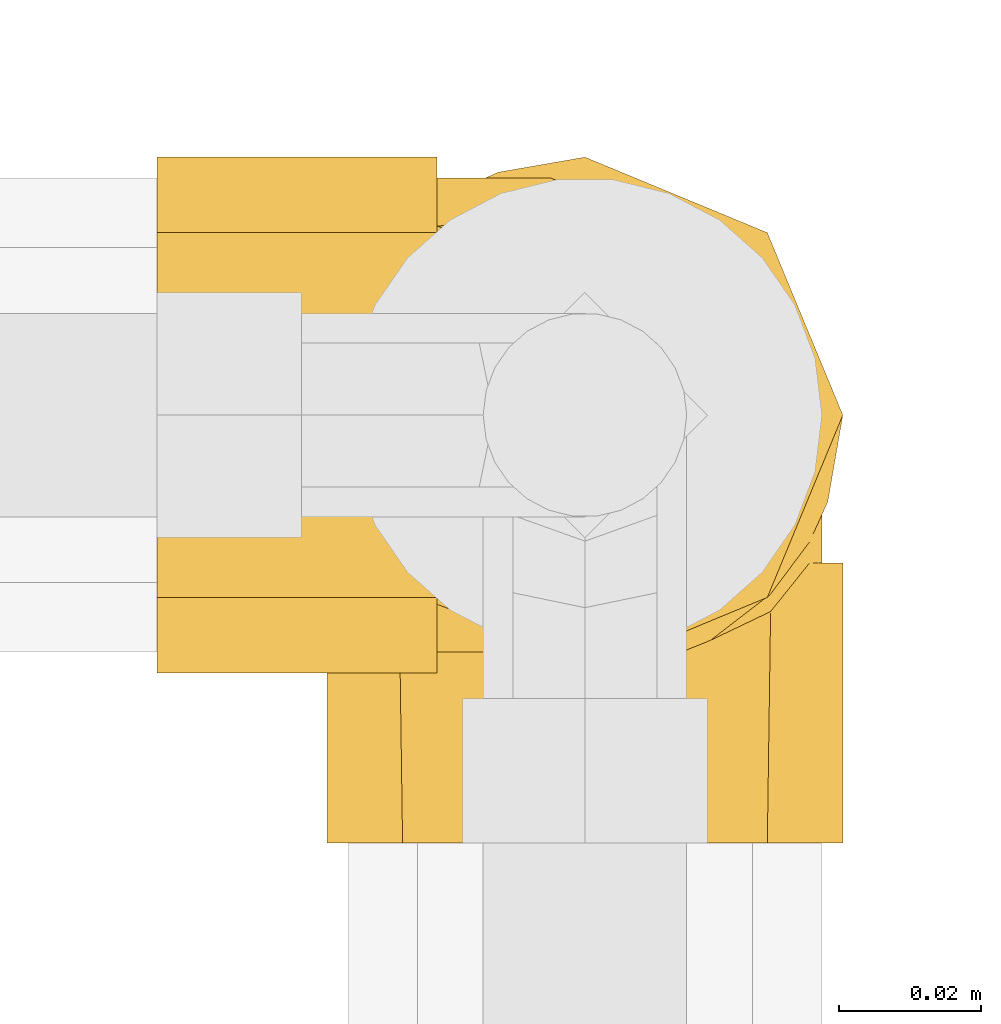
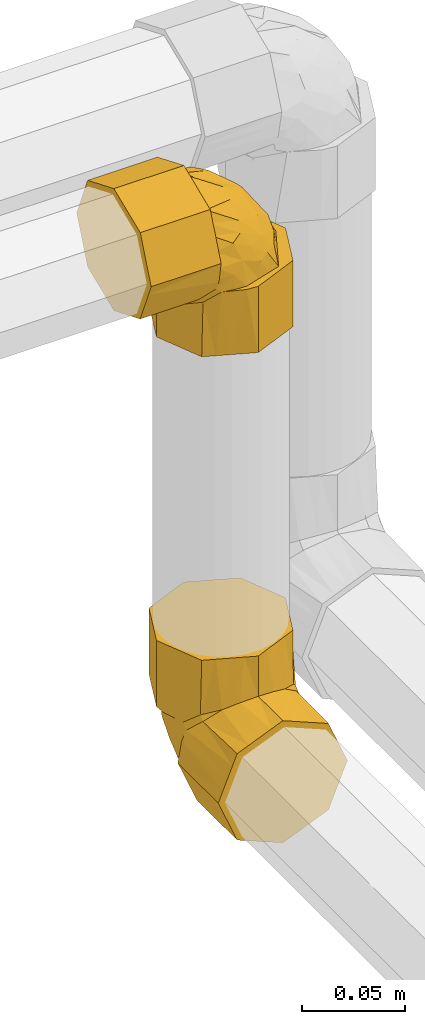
# One storey, part 267 of 652: 2 coverings.
"""IFC2X3 building model written with IfcOpenShell, lengths in millimetres."""

from ifc_helpers import new_model, entity, si_unit, converted_unit, direction, frame, origin, place, context, subcontext, project, spatial, faceted_brep, material, type_object, element, save


model = new_model("IFC2X3")

# Units and contexts
model_context = context("Model", 3, precision=0.01, world=frame((0.0, 0.0, 308426.39999999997)), true_north=direction((6.123233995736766e-17, 1.0)))
plan_context = context("Plan", 3, precision=0.01, world=frame((0.0, 0.0, 308426.39999999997)), true_north=direction((6.123233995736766e-17, 1.0)))
body_context = subcontext(model_context, "Body", "Model", "MODEL_VIEW")
ifc_project = project(units=[si_unit("LENGTHUNIT", "METRE", prefix="MILLI"), si_unit("AREAUNIT", "SQUARE_METRE"), si_unit("VOLUMEUNIT", "CUBIC_METRE"), converted_unit("PLANEANGLEUNIT", "DEGREE", entity("IfcPlaneAngleMeasure", 0.017453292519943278), si_unit("PLANEANGLEUNIT", "RADIAN"), dimensions=[0, 0, 0, 0, 0, 0, 0])], contexts=[model_context, plan_context])

# Site, building, storey
site_placement = place(None, origin())
site = spatial("IfcSite", under=ifc_project, at=site_placement, Name="Default", CompositionType="ELEMENT")
building_placement = place(site_placement, origin())
building = spatial("IfcBuilding", under=site, at=building_placement, CompositionType="ELEMENT")
storey_placement = place(building_placement, frame((0.0, 0.0, 1730.6999999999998)))
storey = spatial("IfcBuildingStorey", under=building, at=storey_placement, Name="EG_Produktion_FFB", CompositionType="ELEMENT", Elevation=1730.6999999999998)

# Coverings
ifc_material = material(Name="Dämmung - Armaflex-Schlauch")
covering_type = type_object("IfcCoveringType", Name="Rohrdämmung außen:Armaflex-Schlauch", PredefinedType="INSULATION")
covering_1_placement = place(storey_placement, frame((77719.9492499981, 69777.20272776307, 3937.7972722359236)))
element("IfcCovering", 1, at=covering_1_placement, inside=storey, type_object=covering_type, material=ifc_material, Name="Rohrdämmung außen:Armaflex-Schlauch", ObjectType="Rohrdämmung außen:Armaflex-Schlauch", PredefinedType="INSULATION", context=body_context, shape_type="Brep", body=[
    faceted_brep([(39.259249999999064, 3.7153254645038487, -50.004061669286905), (39.259249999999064, 6.296879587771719, -55.63851846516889), (39.259249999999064, 4.988212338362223, -49.19061548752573), (39.259249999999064, 4.509772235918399, -42.62645720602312), (39.259249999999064, 7.880085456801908, -34.86648289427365), (39.259249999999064, 11.250398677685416, -27.106508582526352), (39.259249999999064, 13.86935213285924, -21.076501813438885), (39.259249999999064, 16.488305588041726, -15.046495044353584), (39.259249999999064, 27.142788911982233, -11.034704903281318), (39.259249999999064, 37.79727223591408, -7.022914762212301), (39.259249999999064, 44.42687530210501, -10.459541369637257), (39.259249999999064, 51.05647836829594, -13.896167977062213), (39.259249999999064, 57.686081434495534, -17.33279458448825), (39.259249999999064, 64.31568450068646, -20.76942119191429), (39.259249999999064, 66.427635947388, -27.588803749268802), (39.259249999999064, 68.53958739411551, -34.408186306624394), (39.259249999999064, 71.08477223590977, -42.62645720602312), (39.259249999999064, 70.60633213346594, -49.19061548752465), (39.259249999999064, 69.29766488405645, -55.63851846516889), (39.259249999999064, 73.46335606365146, -44.00333929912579), (39.259249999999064, 73.99927223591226, -37.797272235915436), (39.259249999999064, 70.84694562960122, -30.186882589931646), (39.259249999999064, 68.69761208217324, -24.99793238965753), (39.259249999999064, 66.04678200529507, -18.59826246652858), (39.259249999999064, 63.39595192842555, -12.19859254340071), (39.259249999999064, 56.996282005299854, -9.547762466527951), (39.259249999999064, 50.596612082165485, -6.8969323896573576), (39.259249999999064, 44.196942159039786, -4.246102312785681), (39.259249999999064, 37.79727223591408, -1.5952722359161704), (39.259249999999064, 30.186882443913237, -4.747598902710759), (39.259249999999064, 24.997932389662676, -6.896932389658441), (39.259249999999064, 18.598262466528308, -9.547762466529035), (39.259249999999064, 12.198592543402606, -12.19859254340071), (39.259249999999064, 9.547762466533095, -18.59826246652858), (39.259249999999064, 6.896932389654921, -24.99793238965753), (39.259249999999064, 4.2461023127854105, -31.397602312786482), (39.259249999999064, 1.5952722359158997, -37.797272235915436), (0.0, 71.34844215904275, -44.19694215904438), (0.0, 68.69761208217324, -50.59661208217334), (0.0, 66.04678200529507, -56.99628200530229), (0.0, 63.39595192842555, -63.39595192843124), (0.0, 56.996282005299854, -66.04678200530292), (0.0, 50.596612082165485, -68.6976120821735), (0.0, 44.196942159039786, -71.3484421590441), (0.0, 37.79727223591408, -73.99927223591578), (0.0, 31.39760231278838, -71.3484421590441), (0.0, 24.997932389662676, -68.69761208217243), (0.0, 18.598262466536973, -66.04678200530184), (0.0, 12.198592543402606, -63.39595192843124), (0.0, 9.547762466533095, -56.996282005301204), (0.0, 6.896932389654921, -50.59661208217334), (0.0, 4.2461023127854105, -44.19694215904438), (0.0, 1.5952722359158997, -37.797272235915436), (0.0, 4.2461023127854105, -31.397602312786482), (0.0, 6.896932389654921, -24.99793238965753), (0.0, 9.547762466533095, -18.59826246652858), (0.0, 12.198592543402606, -12.19859254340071), (0.0, 22.576491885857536, -7.899925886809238), (0.0, 30.186882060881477, -4.747599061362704), (0.0, 37.79727223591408, -1.5952722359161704), (0.0, 44.196942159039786, -4.246102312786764), (0.0, 50.596612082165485, -6.896932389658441), (0.0, 56.996282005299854, -9.547762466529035), (0.0, 63.39595192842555, -12.19859254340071), (0.0, 67.69461861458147, -22.576491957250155), (0.0, 70.84694542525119, -30.186882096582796), (0.0, 73.99927223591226, -37.797272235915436), (32.46668914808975, 63.85372723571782, -62.92983988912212), (25.075941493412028, 47.14326463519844, -72.77208074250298), (28.426678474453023, 55.41836482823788, -69.42134376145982), (23.848750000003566, 37.79727223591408, -73.99927223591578), (32.46668914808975, 11.740817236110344, -62.92983988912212), (25.075941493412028, 28.451279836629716, -72.77208074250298), (28.426678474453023, 20.176179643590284, -69.42134376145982), (60.05075000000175, 1.5952722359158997, -58.588772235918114), (67.66113984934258, 4.7475989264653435, -58.588772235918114), (72.85008984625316, 6.896932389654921, -58.588772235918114), (79.24975976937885, 9.547762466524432, -58.588772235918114), (85.64942969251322, 12.198592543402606, -58.588772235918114), (88.30025976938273, 18.598262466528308, -58.588772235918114), (90.9510898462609, 24.997932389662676, -58.588772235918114), (93.60191992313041, 31.39760231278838, -58.588772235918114), (96.25274999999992, 37.79727223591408, -58.588772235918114), (93.10042349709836, 45.40766163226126, -58.588772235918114), (90.9510898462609, 50.596612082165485, -58.588772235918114), (88.30025976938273, 56.996282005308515, -58.588772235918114), (85.64942969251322, 63.39595192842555, -58.588772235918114), (79.24975976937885, 66.04678200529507, -58.588772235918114), (72.85008984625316, 68.69761208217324, -58.588772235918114), (66.45041992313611, 71.34844215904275, -58.588772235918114), (60.05075000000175, 73.99927223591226, -58.588772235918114), (47.8439605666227, 71.87921900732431, -58.588772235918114), (42.20950377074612, 69.29766488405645, -58.588772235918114), (48.65740674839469, 70.60633213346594, -58.588772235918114), (55.22156502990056, 71.08477223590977, -58.588772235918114), (62.98153911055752, 67.71445911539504, -58.588772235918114), (70.74151319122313, 64.34414599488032, -58.588772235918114), (76.77152019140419, 61.72519243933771, -58.588772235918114), (82.80152719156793, 59.10623888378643, -58.588772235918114), (86.8133173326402, 48.45175555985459, -58.588772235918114), (90.82510747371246, 37.79727223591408, -58.588772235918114), (87.38848086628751, 31.16766916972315, -58.588772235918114), (83.95185425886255, 24.53806610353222, -58.588772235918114), (80.51522765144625, 17.908463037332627, -58.588772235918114), (77.07860104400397, 11.278859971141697, -58.588772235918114), (70.25921835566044, 9.166908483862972, -58.588772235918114), (63.439835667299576, 7.054956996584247, -58.588772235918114), (55.22156502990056, 4.509772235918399, -58.588772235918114), (48.65740674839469, 4.988212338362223, -58.588772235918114), (42.20950377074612, 6.296879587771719, -58.588772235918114), (53.84468293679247, 2.131188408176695, -58.588772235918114), (85.64942969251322, 63.39595192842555, -97.84802223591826), (89.94809658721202, 53.01805201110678, -97.84802223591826), (93.10042329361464, 45.40766212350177, -97.84802223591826), (96.25274999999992, 37.79727223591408, -97.84802223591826), (93.60191992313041, 31.397602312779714, -97.84802223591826), (90.9510898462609, 24.997932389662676, -97.84802223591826), (88.30025976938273, 18.598262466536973, -97.84802223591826), (85.64942969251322, 12.198592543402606, -97.84802223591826), (75.2715303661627, 7.89992589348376, -97.84802223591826), (67.66114018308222, 4.747599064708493, -97.84802223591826), (60.05075000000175, 1.5952722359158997, -97.84802223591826), (53.65108007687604, 4.2461023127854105, -97.84802223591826), (47.25141015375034, 6.896932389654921, -97.84802223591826), (40.851740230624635, 9.547762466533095, -97.84802223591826), (34.45207030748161, 12.198592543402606, -97.84802223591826), (31.801240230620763, 18.598262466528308, -97.84802223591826), (29.150410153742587, 24.997932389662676, -97.84802223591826), (26.499580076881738, 31.39760231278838, -97.84802223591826), (23.848750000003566, 37.79727223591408, -97.84802223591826), (26.499580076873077, 44.196942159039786, -97.84802223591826), (29.150410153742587, 50.596612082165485, -97.84802223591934), (31.801240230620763, 56.996282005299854, -97.84802223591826), (34.45207030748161, 63.39595192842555, -97.84802223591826), (40.851740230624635, 66.04678200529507, -97.84802223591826), (47.25141015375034, 68.69761208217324, -97.84802223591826), (53.65108007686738, 71.34844215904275, -97.84802223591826), (60.05075000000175, 73.99927223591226, -97.84802223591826), (66.45041992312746, 71.34844215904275, -97.84802223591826), (72.85008984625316, 68.69761208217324, -97.84802223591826), (79.24975976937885, 66.04678200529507, -97.84802223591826), (34.92195481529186, 63.85736541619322, -65.37871062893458), (34.92195481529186, 11.737179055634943, -65.37871062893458), (49.210183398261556, 68.41675007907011, -33.374653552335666), (54.63531521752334, 70.09494488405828, -44.305421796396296), (48.39608948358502, 71.08477223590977, -49.45193275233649), (43.978455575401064, 71.08477223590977, -46.15183622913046), (51.69618583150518, 71.08477223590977, -53.869566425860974), (65.06955237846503, 68.18497914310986, -48.58098457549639), (66.14940844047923, 54.93584498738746, -26.964693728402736), (58.59034686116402, 47.55789547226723, -17.094525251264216), (73.81910229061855, 46.96971299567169, -29.785099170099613), (49.86476535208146, 61.16915130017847, -21.419266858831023), (59.52853294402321, 62.09740281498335, -28.912706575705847), (50.389767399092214, 65.36649404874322, -27.50780353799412), (79.53115199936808, 53.32066831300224, -41.80178984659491), (72.05314656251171, 61.51946830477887, -41.47102568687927), (67.4364402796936, 65.29725071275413, -42.91617535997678), (53.71476365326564, 54.89550280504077, -17.983915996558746), (83.05038596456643, 45.8214932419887, -42.158493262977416), (71.9339064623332, 37.79727223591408, -25.914115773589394), (53.504828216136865, 37.79727223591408, -15.2591476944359), (82.58887389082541, 37.79727223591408, -44.34319289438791), (59.256858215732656, 67.18830204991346, -38.21270924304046), (48.39608948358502, 4.509772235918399, -49.45193275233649), (43.978455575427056, 4.509772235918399, -46.151836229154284), (51.69618583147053, 4.509772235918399, -53.86956642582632), (53.54260071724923, 5.499599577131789, -43.212707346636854), (68.93531358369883, 13.497141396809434, -38.31948716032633), (56.37699426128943, 14.075076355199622, -25.7948738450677), (54.93184531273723, 10.29729383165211, -30.411580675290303), (70.88332482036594, 20.658699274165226, -31.69860991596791), (56.04622779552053, 22.273876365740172, -18.316867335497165), (68.06291889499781, 28.624831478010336, -24.02891622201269), (55.689524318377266, 29.77305016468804, -14.797633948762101), (49.26703672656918, 7.40956538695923, -32.7784690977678), (80.75349406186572, 28.036649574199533, -39.25767043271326), (76.42875424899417, 14.425393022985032, -47.98325505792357), (70.34021782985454, 10.22805028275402, -47.45825379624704), (79.86410395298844, 20.699041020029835, -44.133255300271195), (64.47336832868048, 7.1777944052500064, -48.63783824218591), (59.63531173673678, 8.406242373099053, -38.59116288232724)], [[[0, 1, 2, 3, 4, 5, 6, 7, 8, 9, 10, 11, 12, 13, 14, 15, 16, 17, 18, 19, 20, 21, 22, 23, 24, 25, 26, 27, 28, 29, 30, 31, 32, 33, 34, 35, 36]], [[37, 38, 39, 40, 41, 42, 43, 44, 45, 46, 47, 48, 49, 50, 51, 52, 53, 54, 55, 56, 57, 58, 59, 60, 61, 62, 63, 64, 65, 66]], [[41, 40, 67]], [[39, 67, 40]], [[67, 39, 18]], [[68, 42, 69]], [[69, 42, 41]], [[69, 41, 67]], [[38, 19, 18]], [[20, 19, 66]], [[43, 70, 44]], [[19, 38, 37, 66]], [[43, 42, 68]], [[70, 43, 68]], [[39, 38, 18]], [[66, 65, 64, 63, 24, 23, 22, 21, 20]], [[24, 63, 62, 61, 60, 59, 28, 27, 26, 25]], [[29, 28, 59, 58, 57, 56, 32, 31, 30]], [[32, 56, 55, 54, 53, 52, 36, 35, 34, 33]], [[71, 1, 49]], [[0, 50, 1]], [[1, 50, 49]], [[72, 46, 45]], [[71, 49, 48]], [[47, 71, 48]], [[36, 51, 0]], [[70, 45, 44]], [[51, 50, 0]], [[73, 46, 72]], [[71, 47, 73]], [[45, 70, 72]], [[51, 36, 52]], [[47, 46, 73]], [[74, 75, 76, 77, 78, 79, 80, 81, 82, 83, 84, 85, 86, 87, 88, 89, 90, 91, 92, 93, 94, 95, 96, 97, 98, 99, 100, 101, 102, 103, 104, 105, 106, 107, 108, 109, 110]], [[111, 112, 113, 114, 115, 116, 117, 118, 119, 120, 121, 122, 123, 124, 125, 126, 127, 128, 129, 130, 131, 132, 133, 134, 135, 136, 137, 138, 139, 140]], [[114, 113, 112, 111, 86, 85, 84, 83, 82]], [[86, 111, 140, 139, 138, 137, 90, 89, 88, 87]], [[141, 92, 134]], [[91, 135, 92]], [[68, 131, 130]], [[134, 133, 141]], [[132, 141, 133]], [[136, 135, 91]], [[90, 136, 91]], [[70, 130, 129]], [[136, 90, 137]], [[69, 131, 68]], [[141, 132, 69]], [[130, 70, 68]], [[92, 135, 134]], [[132, 131, 69]], [[126, 125, 142]], [[124, 142, 125]], [[142, 124, 109]], [[72, 127, 73]], [[73, 127, 126]], [[73, 126, 142]], [[123, 110, 109]], [[74, 110, 121]], [[128, 70, 129]], [[110, 123, 122, 121]], [[128, 127, 72]], [[70, 128, 72]], [[124, 123, 109]], [[75, 74, 121, 120, 119, 118, 78, 77, 76]], [[78, 118, 117, 116, 115, 114, 82, 81, 80, 79]], [[15, 143, 144]], [[144, 145, 146, 16]], [[144, 94, 147, 145]], [[96, 95, 148]], [[149, 150, 151]], [[152, 153, 154]], [[149, 155, 156]], [[153, 156, 157]], [[152, 158, 153]], [[16, 15, 144]], [[151, 159, 155]], [[96, 148, 157]], [[151, 155, 149]], [[153, 149, 156]], [[156, 97, 157]], [[160, 159, 151]], [[98, 156, 155]], [[99, 98, 155]], [[160, 150, 161]], [[99, 159, 100]], [[159, 160, 162, 100]], [[160, 151, 150]], [[150, 11, 10]], [[150, 149, 158]], [[10, 161, 150]], [[9, 161, 10]], [[99, 155, 159]], [[143, 15, 14]], [[152, 13, 12]], [[158, 12, 11]], [[150, 158, 11]], [[153, 158, 149]], [[158, 152, 12]], [[154, 163, 143]], [[154, 143, 14]], [[154, 13, 152]], [[143, 163, 144]], [[148, 144, 163]], [[94, 144, 95]], [[154, 14, 13]], [[163, 154, 153]], [[144, 148, 95]], [[157, 148, 163]], [[153, 157, 163]], [[156, 98, 97]], [[96, 157, 97]], [[18, 17, 145]], [[67, 141, 69]], [[141, 67, 18]], [[17, 16, 146, 145]], [[147, 94, 93, 145]], [[141, 18, 92]], [[93, 92, 145]], [[92, 18, 145]], [[164, 1, 109]], [[2, 164, 165, 3]], [[164, 2, 1]], [[1, 71, 142]], [[142, 109, 1]], [[108, 107, 166, 164]], [[108, 164, 109]], [[142, 71, 73]], [[107, 106, 167]], [[168, 169, 170]], [[171, 172, 169]], [[173, 172, 171]], [[167, 164, 166, 107]], [[173, 174, 172]], [[175, 170, 5]], [[168, 171, 169]], [[167, 3, 165, 164]], [[176, 173, 171]], [[177, 168, 178]], [[5, 4, 175]], [[177, 179, 168]], [[106, 180, 167]], [[169, 6, 170]], [[160, 174, 173]], [[7, 169, 172]], [[8, 7, 172]], [[160, 176, 162]], [[8, 174, 9]], [[174, 160, 161, 9]], [[160, 173, 176]], [[176, 102, 101]], [[176, 171, 179]], [[101, 162, 176]], [[100, 162, 101]], [[8, 172, 174]], [[180, 106, 105]], [[177, 104, 103]], [[179, 103, 102]], [[176, 179, 102]], [[168, 179, 171]], [[179, 177, 103]], [[178, 181, 180]], [[178, 180, 105]], [[178, 104, 177]], [[180, 181, 167]], [[175, 167, 181]], [[3, 167, 4]], [[178, 105, 104]], [[181, 178, 168]], [[167, 175, 4]], [[170, 175, 181]], [[168, 170, 181]], [[169, 7, 6]], [[5, 170, 6]]]),
])
covering_2_placement = place(storey_placement, frame((77742.20272776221, 69754.94924999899, 3562.2027277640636)))
element("IfcCovering", 2, at=covering_2_placement, inside=storey, type_object=covering_type, material=ifc_material, Name="Rohrdämmung außen:Armaflex-Schlauch", ObjectType="Rohrdämmung außen:Armaflex-Schlauch", PredefinedType="INSULATION", context=body_context, shape_type="Brep", body=[
    faceted_brep([(71.87876124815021, 47.84268255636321, 58.588772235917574), (69.29766488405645, 42.20950377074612, 58.588772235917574), (70.60633213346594, 48.65740674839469, 58.588772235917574), (71.08477223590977, 55.22156502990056, 58.588772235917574), (67.71555609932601, 62.98224402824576, 58.58877223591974), (64.34633996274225, 70.7429230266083, 58.588772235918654), (61.73029913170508, 76.76873209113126, 58.588772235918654), (59.11425830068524, 82.79454115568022, 58.588772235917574), (48.455765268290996, 86.809824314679, 58.588772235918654), (37.79727223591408, 90.82510747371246, 58.588772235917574), (31.165885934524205, 87.38600173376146, 58.588772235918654), (24.534499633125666, 83.94689599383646, 58.588772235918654), (17.903113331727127, 80.5077902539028, 58.588772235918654), (11.271727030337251, 77.0686845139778, 58.588772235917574), (9.16267637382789, 70.25457778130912, 58.588772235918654), (7.0536257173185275, 63.44047104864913, 58.588772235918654), (4.509772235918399, 55.22156502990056, 58.588772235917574), (4.988212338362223, 48.65740674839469, 58.588772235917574), (6.296879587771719, 42.20950377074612, 58.588772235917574), (2.1312790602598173, 53.8441619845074, 58.588772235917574), (1.5952722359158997, 60.05075000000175, 58.588772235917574), (4.747598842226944, 67.66113964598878, 58.588772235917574), (6.896932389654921, 72.85008984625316, 58.588772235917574), (9.547762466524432, 79.24975976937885, 58.58877223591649), (12.198592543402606, 85.64942969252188, 58.588772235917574), (18.598262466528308, 88.30025976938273, 58.588772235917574), (24.997932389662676, 90.9510898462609, 58.588772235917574), (31.39760231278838, 93.60191992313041, 58.588772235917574), (37.79727223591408, 96.25274999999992, 58.588772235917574), (45.407662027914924, 93.10042333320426, 58.588772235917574), (50.596612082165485, 90.9510898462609, 58.58877223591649), (56.996282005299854, 88.30025976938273, 58.588772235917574), (63.39595192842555, 85.64942969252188, 58.588772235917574), (66.04678200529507, 79.24975976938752, 58.588772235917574), (68.69761208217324, 72.85008984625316, 58.588772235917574), (71.34844215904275, 66.45041992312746, 58.588772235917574), (73.99927223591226, 60.05075000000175, 58.588772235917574), (12.198592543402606, 34.452070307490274, 97.84802223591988), (18.598262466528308, 31.801240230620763, 97.84802223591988), (24.997932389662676, 29.150410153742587, 97.84802223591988), (31.39760231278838, 26.499580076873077, 97.84802223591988), (37.79727223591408, 23.848750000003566, 97.84802223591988), (44.196942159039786, 26.499580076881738, 97.84802223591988), (50.596612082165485, 29.150410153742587, 97.84802223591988), (56.996282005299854, 31.801240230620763, 97.84802223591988), (63.39595192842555, 34.452070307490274, 97.84802223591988), (66.04678200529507, 40.851740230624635, 97.84802223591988), (68.69761208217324, 47.25141015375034, 97.84802223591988), (71.3484421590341, 53.65108007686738, 97.84802223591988), (73.99927223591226, 60.05075000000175, 97.84802223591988), (71.3484421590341, 66.45041992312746, 97.84802223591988), (68.69761208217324, 72.85008984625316, 97.84802223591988), (66.04678200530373, 79.24975976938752, 97.84802223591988), (63.39595192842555, 85.64942969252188, 97.84802223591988), (53.01805258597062, 89.94809634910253, 97.84802223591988), (45.40766241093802, 93.10042317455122, 97.84802223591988), (37.79727223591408, 96.25274999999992, 97.84802223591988), (31.39760231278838, 93.60191992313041, 97.84802223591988), (24.99793238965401, 90.9510898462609, 97.84802223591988), (18.598262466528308, 88.30025976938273, 97.84802223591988), (12.198592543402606, 85.64942969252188, 97.84802223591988), (7.899925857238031, 75.27153027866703, 97.84802223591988), (4.747599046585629, 67.66114013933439, 97.84802223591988), (1.5952722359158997, 60.05075000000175, 97.84802223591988), (4.246102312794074, 53.65108007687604, 97.84802223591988), (6.896932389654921, 47.25141015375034, 97.84802223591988), (9.547762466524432, 40.851740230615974, 97.84802223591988), (11.740817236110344, 34.91818234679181, 65.38133308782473), (28.451279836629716, 25.075941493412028, 72.77208074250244), (20.176179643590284, 28.426678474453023, 69.42134376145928), (37.79727223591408, 23.848750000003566, 73.99927223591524), (63.85372723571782, 34.91818234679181, 65.38133308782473), (47.14326463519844, 25.075941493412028, 72.77208074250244), (55.41836482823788, 28.426678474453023, 69.42134376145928), (73.99927223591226, 39.259249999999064, 37.79727223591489), (70.84694554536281, 39.259249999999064, 30.186882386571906), (68.69761208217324, 39.259249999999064, 24.99793238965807), (66.04678200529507, 39.259249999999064, 18.598262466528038), (63.39595192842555, 39.259249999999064, 12.198592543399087), (56.996282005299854, 39.259249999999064, 9.547762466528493), (50.596612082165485, 39.259249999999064, 6.896932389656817), (44.196942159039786, 39.259249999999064, 4.246102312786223), (37.79727223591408, 39.259249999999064, 1.5952722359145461), (30.1868828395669, 39.259249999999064, 4.747598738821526), (24.997932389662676, 39.259249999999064, 6.896932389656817), (18.598262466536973, 39.259249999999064, 9.547762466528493), (12.198592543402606, 39.259249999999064, 12.198592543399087), (9.547762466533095, 39.259249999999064, 18.598262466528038), (6.896932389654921, 39.259249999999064, 24.997932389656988), (4.246102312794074, 39.259249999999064, 31.397602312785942), (1.5952722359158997, 39.259249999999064, 37.79727223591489), (3.7153254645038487, 39.259249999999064, 50.004061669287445), (6.296879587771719, 39.259249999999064, 55.63851846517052), (4.988212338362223, 39.259249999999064, 49.190615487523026), (4.509772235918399, 39.259249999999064, 42.626457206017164), (7.878988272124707, 39.259249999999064, 34.86577843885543), (11.248204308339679, 39.259249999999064, 27.105099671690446), (13.864245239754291, 39.259249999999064, 21.07929037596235), (16.480286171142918, 39.259249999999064, 15.053481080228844), (27.138779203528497, 39.259249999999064, 11.038197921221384), (37.79727223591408, 39.259249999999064, 7.02291476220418), (44.42865853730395, 39.259249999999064, 10.462020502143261), (51.060044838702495, 39.259249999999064, 13.901126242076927), (57.69143114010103, 39.25925000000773, 17.340231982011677), (64.32281744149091, 39.259249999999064, 20.77933772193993), (66.43186813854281, 39.259249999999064, 27.59344458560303), (68.54091883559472, 39.259249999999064, 34.407551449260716), (71.08477223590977, 39.259249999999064, 42.626457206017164), (70.60633213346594, 39.259249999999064, 49.190615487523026), (69.29766488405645, 39.259249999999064, 55.63851846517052), (73.46335606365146, 39.259249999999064, 44.00333929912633), (4.246102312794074, 0.0, 31.397602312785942), (6.896932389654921, 0.0, 24.997932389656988), (9.547762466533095, 0.0, 18.598262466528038), (12.198592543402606, 0.0, 12.198592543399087), (22.576492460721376, 0.0, 7.899925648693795), (30.186882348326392, 0.0, 4.747598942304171), (37.79727223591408, 0.0, 1.5952722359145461), (44.196942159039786, 0.0, 4.246102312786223), (50.596612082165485, 0.0, 6.896932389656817), (56.996282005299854, 0.0, 9.547762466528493), (63.39595192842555, 0.0, 12.198592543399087), (67.6946185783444, 0.0, 22.576491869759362), (70.84694540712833, 0.0, 30.18688205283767), (73.99927223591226, 0.0, 37.79727223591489), (71.34844215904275, 0.0, 44.19694215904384), (68.69761208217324, 0.0, 50.5966120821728), (66.04678200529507, 0.0, 56.996282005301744), (63.39595192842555, 0.0, 63.39595192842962), (56.996282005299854, 0.0, 66.0467820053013), (50.596612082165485, 0.0, 68.69761208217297), (44.19694215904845, 0.0, 71.34844215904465), (37.79727223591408, 0.0, 73.99927223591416), (31.39760231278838, 0.0, 71.34844215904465), (24.99793238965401, 0.0, 68.69761208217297), (18.598262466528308, 0.0, 66.0467820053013), (12.198592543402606, 0.0, 63.39595192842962), (9.547762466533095, 0.0, 56.996282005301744), (6.896932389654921, 0.0, 50.5966120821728), (4.246102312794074, 0.0, 44.19694215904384), (1.5952722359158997, 0.0, 37.79727223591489), (11.737179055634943, 32.46931160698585, 62.926067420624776), (63.85736541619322, 32.46931160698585, 62.926067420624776), (7.176889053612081, 64.46975709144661, 48.636199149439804), (5.499665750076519, 53.536207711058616, 43.206149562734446), (4.509772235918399, 48.39608948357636, 49.45193275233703), (4.509772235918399, 51.69618600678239, 53.86956666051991), (4.509772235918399, 43.97845581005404, 46.15183640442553), (7.4096192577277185, 49.266854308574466, 32.77820750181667), (20.658922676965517, 70.89302761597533, 31.709116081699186), (28.033803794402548, 80.76404412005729, 39.275957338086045), (28.62447939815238, 68.07920285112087, 24.043589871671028), (14.417993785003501, 76.42208115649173, 47.98624684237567), (13.497052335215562, 68.93208707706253, 38.31563958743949), (10.22773262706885, 70.34057210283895, 47.45975333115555), (22.28882316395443, 56.04646872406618, 18.30781415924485), (14.07759439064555, 56.37753332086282, 25.79213161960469), (10.29838437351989, 54.93161477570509, 30.409427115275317), (20.692179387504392, 79.8641260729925, 44.14169038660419), (29.784990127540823, 55.72937800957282, 14.816734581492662), (37.79727223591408, 71.93390646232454, 25.914115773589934), (37.79727223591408, 82.58887454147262, 44.3431940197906), (37.79727223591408, 53.504829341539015, 15.259148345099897), (8.406458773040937, 59.635611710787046, 38.59088741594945), (71.08477223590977, 48.39608948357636, 49.45193275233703), (71.08477223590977, 51.6961860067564, 53.8695666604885), (71.08477223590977, 43.97845581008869, 46.15183640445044), (70.09487873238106, 54.6418723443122, 44.311814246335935), (62.097492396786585, 59.532384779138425, 28.915937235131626), (61.51694989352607, 72.05589244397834, 41.470491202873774), (65.2961600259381, 67.43859640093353, 42.91640902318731), (54.93562200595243, 66.13891003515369, 26.954998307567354), (53.30572110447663, 79.54021097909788, 41.80155811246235), (46.97006507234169, 73.80443609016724, 29.768823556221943), (45.809555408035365, 83.03128998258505, 42.11864888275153), (68.18492515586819, 65.0698154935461, 48.58116886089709), (47.5607401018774, 58.572069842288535, 17.083981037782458), (61.176550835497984, 49.861777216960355, 21.42594220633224), (65.36681198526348, 50.38826994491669, 27.50745100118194), (54.90236573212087, 53.706335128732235, 17.98389844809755), (68.41765540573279, 49.211823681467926, 33.378265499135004), (67.18808574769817, 59.257135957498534, 38.21241178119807)], [[[0, 1, 2, 3, 4, 5, 6, 7, 8, 9, 10, 11, 12, 13, 14, 15, 16, 17, 18, 19, 20, 21, 22, 23, 24, 25, 26, 27, 28, 29, 30, 31, 32, 33, 34, 35, 36]], [[37, 38, 39, 40, 41, 42, 43, 44, 45, 46, 47, 48, 49, 50, 51, 52, 53, 54, 55, 56, 57, 58, 59, 60, 61, 62, 63, 64, 65, 66]], [[38, 37, 67]], [[66, 67, 37]], [[67, 66, 18]], [[68, 39, 69]], [[69, 39, 38]], [[69, 38, 67]], [[65, 19, 18]], [[20, 19, 63]], [[40, 70, 41]], [[19, 65, 64, 63]], [[40, 39, 68]], [[70, 40, 68]], [[66, 65, 18]], [[63, 62, 61, 60, 24, 23, 22, 21, 20]], [[24, 60, 59, 58, 57, 56, 28, 27, 26, 25]], [[29, 28, 56, 55, 54, 53, 32, 31, 30]], [[32, 53, 52, 51, 50, 49, 36, 35, 34, 33]], [[71, 1, 46]], [[0, 47, 1]], [[1, 47, 46]], [[72, 43, 42]], [[71, 46, 45]], [[44, 71, 45]], [[36, 48, 0]], [[70, 42, 41]], [[48, 47, 0]], [[73, 43, 72]], [[71, 44, 73]], [[42, 70, 72]], [[48, 36, 49]], [[44, 43, 73]], [[74, 75, 76, 77, 78, 79, 80, 81, 82, 83, 84, 85, 86, 87, 88, 89, 90, 91, 92, 93, 94, 95, 96, 97, 98, 99, 100, 101, 102, 103, 104, 105, 106, 107, 108, 109, 110]], [[111, 112, 113, 114, 115, 116, 117, 118, 119, 120, 121, 122, 123, 124, 125, 126, 127, 128, 129, 130, 131, 132, 133, 134, 135, 136, 137, 138, 139, 140]], [[117, 116, 115, 114, 86, 85, 84, 83, 82]], [[86, 114, 113, 112, 111, 140, 90, 89, 88, 87]], [[141, 92, 137]], [[91, 138, 92]], [[68, 134, 133]], [[137, 136, 141]], [[135, 141, 136]], [[139, 138, 91]], [[90, 139, 91]], [[70, 133, 132]], [[139, 90, 140]], [[69, 134, 68]], [[141, 135, 69]], [[133, 70, 68]], [[92, 138, 137]], [[135, 134, 69]], [[129, 128, 142]], [[127, 142, 128]], [[142, 127, 109]], [[72, 130, 73]], [[73, 130, 129]], [[73, 129, 142]], [[126, 110, 109]], [[74, 110, 124]], [[131, 70, 132]], [[110, 126, 125, 124]], [[131, 130, 72]], [[70, 131, 72]], [[127, 126, 109]], [[75, 74, 124, 123, 122, 121, 78, 77, 76]], [[78, 121, 120, 119, 118, 117, 82, 81, 80, 79]], [[15, 143, 144]], [[144, 145, 146, 16]], [[144, 94, 147, 145]], [[96, 95, 148]], [[149, 150, 151]], [[152, 153, 154]], [[149, 155, 156]], [[153, 156, 157]], [[152, 158, 153]], [[16, 15, 144]], [[151, 159, 155]], [[96, 148, 157]], [[151, 155, 149]], [[153, 149, 156]], [[156, 97, 157]], [[160, 159, 151]], [[98, 156, 155]], [[99, 98, 155]], [[160, 150, 161]], [[99, 159, 100]], [[159, 160, 162, 100]], [[160, 151, 150]], [[150, 11, 10]], [[150, 149, 158]], [[10, 161, 150]], [[9, 161, 10]], [[99, 155, 159]], [[143, 15, 14]], [[152, 13, 12]], [[158, 12, 11]], [[150, 158, 11]], [[153, 158, 149]], [[158, 152, 12]], [[154, 163, 143]], [[154, 143, 14]], [[154, 13, 152]], [[143, 163, 144]], [[148, 144, 163]], [[94, 144, 95]], [[154, 14, 13]], [[163, 154, 153]], [[144, 148, 95]], [[157, 148, 163]], [[153, 157, 163]], [[156, 98, 97]], [[96, 157, 97]], [[18, 17, 145]], [[67, 141, 69]], [[141, 67, 18]], [[17, 16, 146, 145]], [[147, 94, 93, 145]], [[141, 18, 92]], [[93, 92, 145]], [[92, 18, 145]], [[164, 1, 109]], [[2, 164, 165, 3]], [[164, 2, 1]], [[1, 71, 142]], [[142, 109, 1]], [[108, 107, 166, 164]], [[108, 164, 109]], [[142, 71, 73]], [[107, 106, 167]], [[168, 169, 170]], [[171, 172, 169]], [[173, 172, 171]], [[167, 164, 166, 107]], [[173, 174, 172]], [[175, 170, 5]], [[168, 171, 169]], [[167, 3, 165, 164]], [[176, 173, 171]], [[177, 168, 178]], [[5, 4, 175]], [[177, 179, 168]], [[106, 180, 167]], [[169, 6, 170]], [[160, 174, 173]], [[7, 169, 172]], [[8, 7, 172]], [[160, 176, 162]], [[8, 174, 9]], [[174, 160, 161, 9]], [[160, 173, 176]], [[176, 102, 101]], [[176, 171, 179]], [[101, 162, 176]], [[100, 162, 101]], [[8, 172, 174]], [[180, 106, 105]], [[177, 104, 103]], [[179, 103, 102]], [[176, 179, 102]], [[168, 179, 171]], [[179, 177, 103]], [[178, 181, 180]], [[178, 180, 105]], [[178, 104, 177]], [[180, 181, 167]], [[175, 167, 181]], [[3, 167, 4]], [[178, 105, 104]], [[181, 178, 168]], [[167, 175, 4]], [[170, 175, 181]], [[168, 170, 181]], [[169, 7, 6]], [[5, 170, 6]]]),
])

save(model, "model.ifc")
